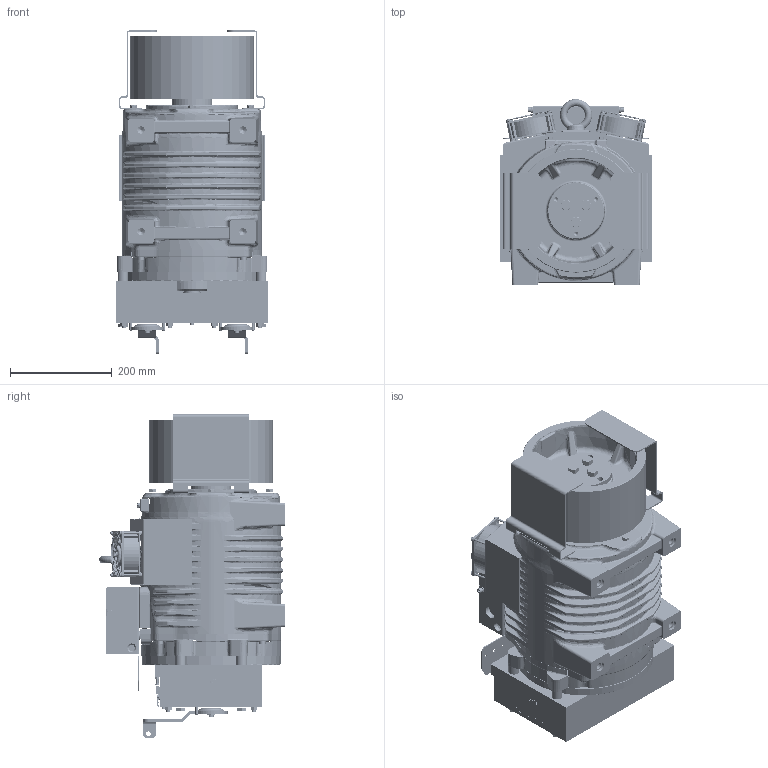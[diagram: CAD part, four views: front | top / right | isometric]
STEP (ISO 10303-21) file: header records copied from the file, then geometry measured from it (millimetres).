
FILE_DESCRIPTION((''),'2;1');
FILE_NAME('00366577_ASM','2023-06-05T12:20:10',('AsgharM'),('Sicor spa'),'CREO PARAMETRIC BY PTC INC, 2022164','CREO PARAMETRIC BY PTC INC, 2022164','');
FILE_SCHEMA(('CONFIG_CONTROL_DESIGN'));
Products named in the file (18): SG30_2023; G__240; _240_125; 00073486; GROWER_M12_GRO0002; TEM12X45_VIT0222; 00246001; M4_FTT_C; 00254619_ASM; 00254091; 00254090; 00254089_ASM; 00257271; 00042420_M4X50; TEM6X12_VIR0184; 00000263; 00257441_ASM; 00366577_ASM
Assembly tree (39 placements, depth 4):
  00366577_ASM
    SG30_2023
    G__240  x2
    _240_125
    00073486
    GROWER_M12_GRO0002  x3
    TEM12X45_VIT0222  x3
    00257441_ASM
      00254619_ASM
        00246001
        M4_FTT_C  x8
      00254089_ASM  x2
        00254091
        00254090
      00257271  x2
      00042420_M4X50  x8
      TEM6X12_VIR0184  x2
      00000263
Bounding box: 300.4 x 364.99 x 635.52 mm (x, y, z)
Volume: 3544499 mm3; surface area: 1970883.7 mm2
Topology: 36 solids, 289 shells, 5138 faces, 17584 edges, 12544 vertices
Faces by surface type: plane 2015, cylinder 1240, bspline 1013, torus 434, cone 402, sphere 34
Entity records: 248344 total; most frequent: CARTESIAN_POINT 119468, ORIENTED_EDGE 25116, DIRECTION 24523, EDGE_CURVE 16076, VERTEX_POINT 11655, VECTOR 9191, LINE 9191, AXIS2_PLACEMENT_3D 7666
